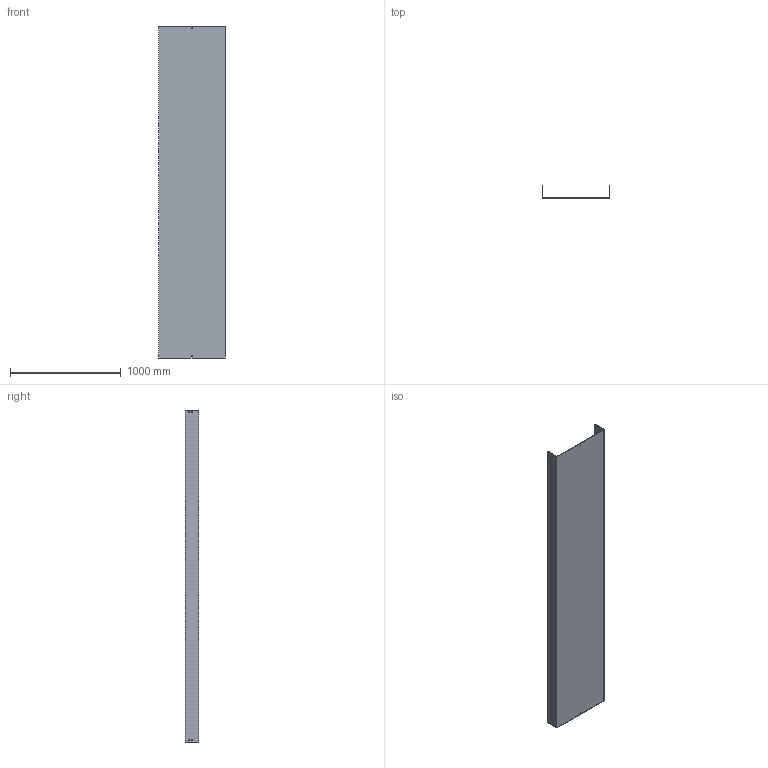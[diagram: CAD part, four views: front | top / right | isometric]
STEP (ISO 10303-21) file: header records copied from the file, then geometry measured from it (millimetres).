
FILE_DESCRIPTION (( 'STEP AP214' ), '1' );
FILE_NAME ('03B3J600.step', '2025-02-21T10:09:18', ( '' ), ( '' ), 'SwSTEP 2.0', 'SolidWorks 2023', '' );
FILE_SCHEMA (( 'AUTOMOTIVE_DESIGN' ));
Length unit declared in the file: millimetre
Products named in the file (1): 03B3J600
Bounding box: 604 x 117.5 x 3000 mm (x, y, z)
Volume: 8733630.5 mm3; surface area: 5018639 mm2
Topology: 1 solids, 1 shells, 50 faces, 144 edges, 96 vertices
Faces by surface type: plane 50
Entity records: 1671 total; most frequent: CARTESIAN_POINT 291, ORIENTED_EDGE 288, DIRECTION 246, EDGE_CURVE 144, LINE 144, VECTOR 144, VERTEX_POINT 96, EDGE_LOOP 70
